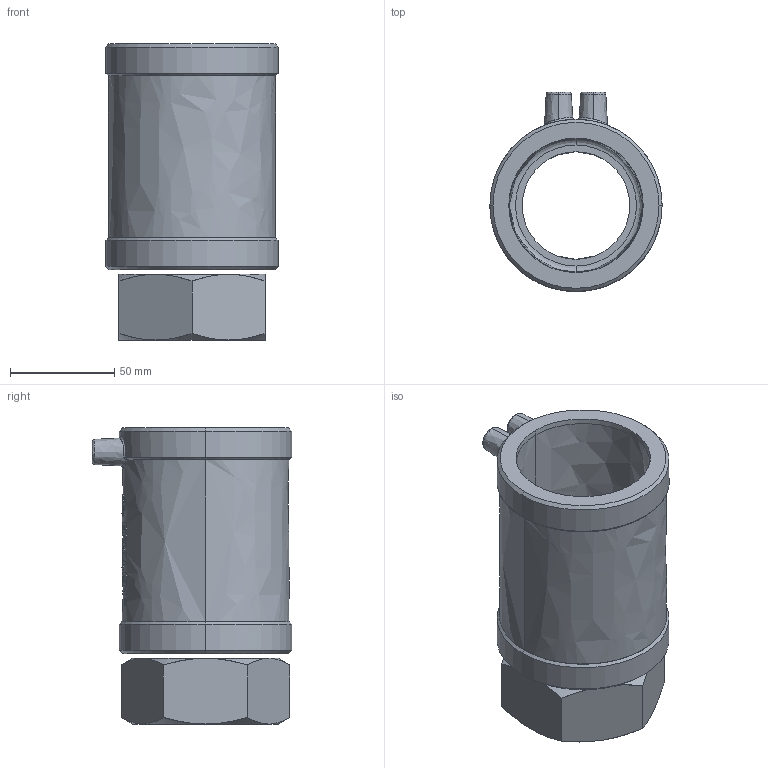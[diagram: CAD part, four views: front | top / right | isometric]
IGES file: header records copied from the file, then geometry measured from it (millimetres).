
Start section:  PTC IGES file: ustm_d63_2_01.igs
Global section: file name: ustm_d63_2_01.igs; native system: Pro/ENGINEER by Parametric Technology Corporation; preprocessor: 2011490; author: mtunjic; organization: Unknown; date: 20130823.112601; units: millimetre
Bounding box: 82.5 x 95.45 x 141.77 mm (x, y, z)
Surface area: 74238 mm2 (no closed solid volume)
Topology: 0 solids, 0 shells, 216 faces, 1108 edges, 1108 vertices
Faces by surface type: bspline 216
